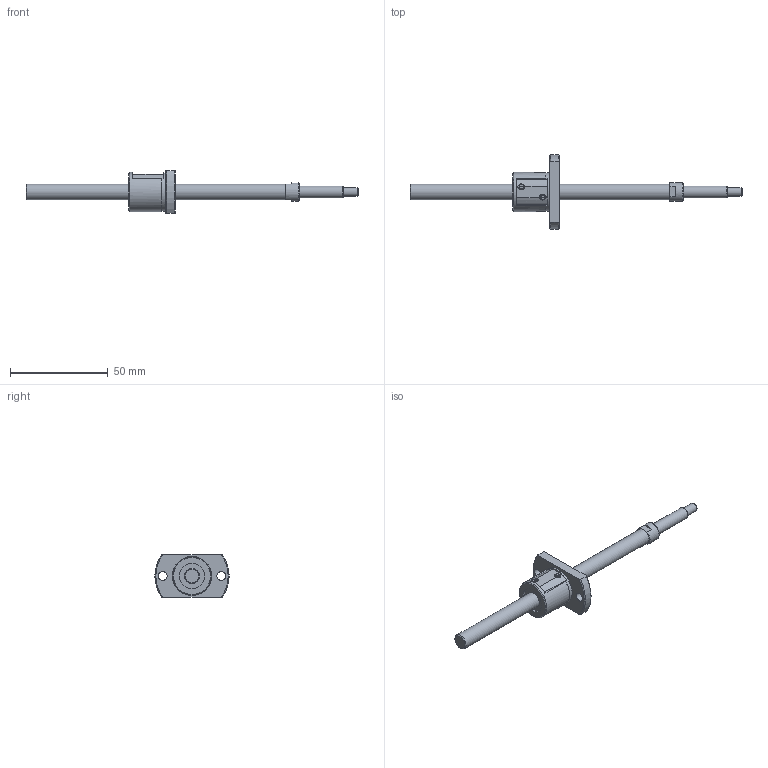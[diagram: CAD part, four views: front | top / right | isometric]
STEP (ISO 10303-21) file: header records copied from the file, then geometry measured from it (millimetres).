
FILE_DESCRIPTION(/* description */ ('STEP AP214'),/* implementation_level */ '2;1');
FILE_NAME(/* name */ 'SG0802-129R170C3A0X(52.5)',/* time_stamp */ '2026-07-21T16:44:56+02:00',/* author */ ('License CC BY-ND 4.0'),/* organization */ ('CADENAS'),/* preprocessor_version */ 'ST-DEVELOPER v20',/* originating_system */ 'PARTsolutions',/* authorisation */ ' ');
FILE_SCHEMA (('AUTOMOTIVE_DESIGN {1 0 10303 214 3 1 1}'));
Length unit declared in the file: millimetre
Products named in the file (3): SG0802-129R170C3A0X(52.5); SG0802-129R170C3A_shaft; SG0802_nut
Assembly tree (2 placements, depth 2):
  SG0802-129R170C3A0X(52.5)
    SG0802-129R170C3A_shaft
    SG0802_nut
Bounding box: 170 x 38 x 22 mm (x, y, z)
Volume: 16091.3 mm3; surface area: 8121.7 mm2
Topology: 2 solids, 2 shells, 72 faces, 176 edges, 115 vertices
Faces by surface type: plane 35, cylinder 23, cone 13, torus 1
Full cylindrical faces by diameter (mm): 4.5 x3, 6 x1, 8 x2, 9.5 x1, 13 x2, 19.7 x1, 20 x1
Entity records: 2057 total; most frequent: CARTESIAN_POINT 387, DIRECTION 346, ORIENTED_EDGE 292, EDGE_CURVE 146, AXIS2_PLACEMENT_3D 143, VERTEX_POINT 106, EDGE_LOOP 106, FACE_BOUND 106
